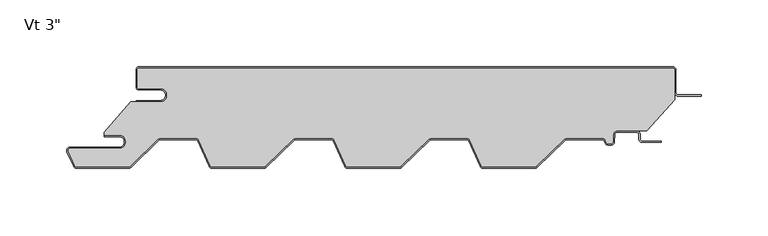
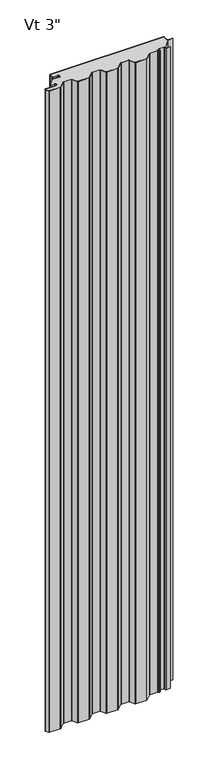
"""IFC4 building model written with IfcOpenShell, lengths in millimetres: plate geometry."""

from ifc_helpers import new_model, si_unit, point, frame_2d, origin, origin_with_axes, place, context, project, spatial, polyline, circle_curve, trimmed, segment, composite_curve, outline, extrude, source, transform, mapped, element, save


def plate_729f4142(model_context):
    return source(origin(), model_context, "Body", "SweptSolid", [
        extrude(outline(composite_curve([segment(trimmed(circle_curve(frame_2d((-184.14375, -21.4324412)), 4.96875), [point((-184.14375, -26.4011912))], [point((-184.14375, -16.4636912))], True, "CARTESIAN"), True, "CONTINUOUS"), segment(polyline([(-184.14375, -16.4636912), (-200.01875, -16.4636912)]), True, "CONTINUOUS"), segment(trimmed(circle_curve(frame_2d((-200.01875, -15.0824412)), 1.38125), [point((-200.01875, -16.4636912))], [point((-201.4, -15.0824412))], False, "CARTESIAN"), True, "CONTINUOUS"), segment(polyline([(-201.4, -15.0824412), (-201.4, -2.3824412)]), True, "CONTINUOUS"), segment(trimmed(circle_curve(frame_2d((-200.01875, -2.3824412)), 1.38125), [point((-201.4, -2.3824412))], [point((-200.01875, -1.0011912))], False, "CARTESIAN"), True, "CONTINUOUS"), segment(polyline([(-200.01875, -1.0011912), (200.03125, -1.0011912)]), True, "CONTINUOUS"), segment(trimmed(circle_curve(frame_2d((200.03125, -2.3824412)), 1.38125), [point((200.03125, -1.0011912))], [point((201.4125, -2.3824412))], False, "CARTESIAN"), True, "CONTINUOUS"), segment(polyline([(201.4125, -2.3824412), (201.4125, -24.8719682), (180.5955434, -48.2136912), (158.1683457, -48.2136912)]), True, "CONTINUOUS"), segment(trimmed(circle_curve(frame_2d((158.1683457, -50.8011912)), 2.5875), [point((158.1683457, -48.2136912))], [point((155.5843918, -50.6657719))], True, "CARTESIAN"), True, "CONTINUOUS"), segment(polyline([(155.5843918, -50.6657719), (155.2823155, -56.4297302)]), True, "CONTINUOUS"), segment(trimmed(circle_curve(frame_2d((153.9029585, -56.3574412)), 1.38125), [point((155.2823155, -56.4297302))], [point((153.9029585, -57.7386912))], False, "CARTESIAN"), True, "CONTINUOUS"), segment(polyline([(153.9029585, -57.7386912), (151.5754519, -57.7386912)]), True, "CONTINUOUS"), segment(trimmed(circle_curve(frame_2d((151.5754519, -56.3574412)), 1.38125), [point((151.5754519, -57.7386912))], [point((150.3124516, -56.9166208))], False, "CARTESIAN"), True, "CONTINUOUS"), segment(polyline([(150.3124516, -56.9166208), (149.5640306, -55.2261871)]), True, "CONTINUOUS"), segment(trimmed(circle_curve(frame_2d((147.1980481, -56.2737)), 2.5875), [point((149.5640306, -55.2261871))], [point((147.1980481, -53.6862))], True, "CARTESIAN"), True, "CONTINUOUS"), segment(polyline([(147.1980481, -53.6862), (120.6742003, -53.6862)]), True, "CONTINUOUS"), segment(trimmed(circle_curve(frame_2d((120.6742003, -56.2737)), 2.5875), [point((120.6742003, -53.6862))], [point((118.8745496, -54.4145567))], True, "CARTESIAN"), True, "CONTINUOUS"), segment(polyline([(118.8745496, -54.4145567), (97.8036462, -74.8111912)]), True, "CONTINUOUS"), segment(trimmed(circle_curve(frame_2d((96.8429631, -73.81875)), 1.38125), [point((97.8036462, -74.8111912))], [point((96.8429631, -75.2))], False, "CARTESIAN"), True, "CONTINUOUS"), segment(polyline([(96.8429631, -75.2), (57.7062557, -75.2)]), True, "CONTINUOUS"), segment(trimmed(circle_curve(frame_2d((57.7062557, -73.81875)), 1.38125), [point((57.7062557, -75.2))], [point((56.4432554, -74.3779296))], False, "CARTESIAN"), True, "CONTINUOUS"), segment(polyline([(56.4432554, -74.3779296), (47.9640306, -55.2261871)]), True, "CONTINUOUS"), segment(trimmed(circle_curve(frame_2d((45.5980481, -56.2737)), 2.5875), [point((47.9640306, -55.2261871))], [point((45.5980481, -53.6862))], True, "CARTESIAN"), True, "CONTINUOUS"), segment(polyline([(45.5980481, -53.6862), (19.0742003, -53.6862)]), True, "CONTINUOUS"), segment(trimmed(circle_curve(frame_2d((19.0742003, -56.2737)), 2.5875), [point((19.0742003, -53.6862))], [point((17.2745496, -54.4145567))], True, "CARTESIAN"), True, "CONTINUOUS"), segment(polyline([(17.2745496, -54.4145567), (-3.7963538, -74.8111912)]), True, "CONTINUOUS"), segment(trimmed(circle_curve(frame_2d((-4.7570369, -73.81875)), 1.38125), [point((-3.7963538, -74.8111912))], [point((-4.7570369, -75.2))], False, "CARTESIAN"), True, "CONTINUOUS"), segment(polyline([(-4.7570369, -75.2), (-43.8937443, -75.2)]), True, "CONTINUOUS"), segment(trimmed(circle_curve(frame_2d((-43.8937443, -73.81875)), 1.38125), [point((-43.8937443, -75.2))], [point((-45.1567446, -74.3779296))], False, "CARTESIAN"), True, "CONTINUOUS"), segment(polyline([(-45.1567446, -74.3779296), (-53.6359694, -55.2261871)]), True, "CONTINUOUS"), segment(trimmed(circle_curve(frame_2d((-56.0019519, -56.2737)), 2.5875), [point((-53.6359694, -55.2261871))], [point((-56.0019519, -53.6862))], True, "CARTESIAN"), True, "CONTINUOUS"), segment(polyline([(-56.0019519, -53.6862), (-82.5257997, -53.6862)]), True, "CONTINUOUS"), segment(trimmed(circle_curve(frame_2d((-82.5257997, -56.2737)), 2.5875), [point((-82.5257997, -53.6862))], [point((-84.3254504, -54.4145567))], True, "CARTESIAN"), True, "CONTINUOUS"), segment(polyline([(-84.3254504, -54.4145567), (-105.3963538, -74.8111912)]), True, "CONTINUOUS"), segment(trimmed(circle_curve(frame_2d((-106.3570369, -73.81875)), 1.38125), [point((-105.3963538, -74.8111912))], [point((-106.3570369, -75.2))], False, "CARTESIAN"), True, "CONTINUOUS"), segment(polyline([(-106.3570369, -75.2), (-145.4937443, -75.2)]), True, "CONTINUOUS"), segment(trimmed(circle_curve(frame_2d((-145.4937443, -73.81875)), 1.38125), [point((-145.4937443, -75.2))], [point((-146.7567446, -74.3779296))], False, "CARTESIAN"), True, "CONTINUOUS"), segment(polyline([(-146.7567446, -74.3779296), (-155.2359694, -55.2261871)]), True, "CONTINUOUS"), segment(trimmed(circle_curve(frame_2d((-157.6019519, -56.2737)), 2.5875), [point((-155.2359694, -55.2261871))], [point((-157.6019519, -53.6862))], True, "CARTESIAN"), True, "CONTINUOUS"), segment(polyline([(-157.6019519, -53.6862), (-184.1257997, -53.6862)]), True, "CONTINUOUS"), segment(trimmed(circle_curve(frame_2d((-184.1257997, -56.2737)), 2.5875), [point((-184.1257997, -53.6862))], [point((-185.9254504, -54.4145567))], True, "CARTESIAN"), True, "CONTINUOUS"), segment(polyline([(-185.9254504, -54.4145567), (-206.7876931, -74.6092077)]), True, "CONTINUOUS"), segment(trimmed(circle_curve(frame_2d((-208.2474446, -73.1012)), 2.0988), [point((-206.7876931, -74.6092077))], [point((-208.2474446, -75.2))], False, "CARTESIAN"), True, "CONTINUOUS"), segment(polyline([(-208.2474446, -75.2), (-247.0937443, -75.2)]), True, "CONTINUOUS"), segment(trimmed(circle_curve(frame_2d((-247.0937443, -73.81875)), 1.38125), [point((-247.0937443, -75.2))], [point((-248.3567446, -74.3779296))], False, "CARTESIAN"), True, "CONTINUOUS"), segment(polyline([(-248.3567446, -74.3779296), (-253.2761552, -63.2666208)]), True, "CONTINUOUS"), segment(trimmed(circle_curve(frame_2d((-252.0131549, -62.7074412)), 1.38125), [point((-253.2761552, -63.2666208))], [point((-252.0131549, -61.3261912))], False, "CARTESIAN"), True, "CONTINUOUS"), segment(polyline([(-252.0131549, -61.3261912), (-215.1, -61.3261912)]), True, "CONTINUOUS"), segment(trimmed(circle_curve(frame_2d((-215.1, -56.3574412)), 4.96875), [point((-215.1, -61.3261912))], [point((-215.1, -51.3886912))], True, "CARTESIAN"), True, "CONTINUOUS"), segment(polyline([(-215.1, -51.3886912), (-226.2125, -51.3886912), (-226.2125, -49.233822), (-206.3914112, -26.4011912), (-184.14375, -26.4011912)]), True, "CONTINUOUS")], self_intersect=False)), origin_with_axes(), (0.0, 0.0, 1.0), 2400.0),
        extrude(outline(composite_curve([segment(polyline([(-202.4, -25.4), (-184.14375, -25.4)]), True, "CONTINUOUS"), segment(trimmed(circle_curve(frame_2d((-184.14375, -21.43125)), 3.96875), [point((-184.14375, -25.4))], [point((-184.14375, -17.4625))], True, "CARTESIAN"), True, "CONTINUOUS"), segment(polyline([(-184.14375, -17.4625), (-200.01875, -17.4625)]), True, "CONTINUOUS"), segment(trimmed(circle_curve(frame_2d((-200.01875, -15.08125)), 2.38125), [point((-200.01875, -17.4625))], [point((-202.4, -15.08125))], False, "CARTESIAN"), True, "CONTINUOUS"), segment(polyline([(-202.4, -15.08125), (-202.4, -2.38125)]), True, "CONTINUOUS"), segment(trimmed(circle_curve(frame_2d((-200.01875, -2.38125)), 2.38125), [point((-202.4, -2.38125))], [point((-200.01875, 0.0))], False, "CARTESIAN"), True, "CONTINUOUS"), segment(polyline([(-200.01875, 0.0), (200.03125, 0.0)]), True, "CONTINUOUS"), segment(trimmed(circle_curve(frame_2d((200.03125, -2.38125)), 2.38125), [point((200.03125, 0.0))], [point((202.4125, -2.38125))], False, "CARTESIAN"), True, "CONTINUOUS"), segment(polyline([(202.4125, -2.38125), (202.4125, -19.446875)]), True, "CONTINUOUS"), segment(trimmed(circle_curve(frame_2d((204.0, -19.446875)), 1.5875), [point((202.4125, -19.446875))], [point((204.0, -21.034375))], True, "CARTESIAN"), True, "CONTINUOUS"), segment(polyline([(204.0, -21.034375), (221.4625, -21.034375), (221.4625, -22.034375), (204.0, -22.034375)]), True, "CONTINUOUS"), segment(trimmed(circle_curve(frame_2d((204.0, -19.446875)), 2.5875), [point((204.0, -22.034375))], [point((201.4125, -19.446875))], False, "CARTESIAN"), True, "CONTINUOUS"), segment(polyline([(201.4125, -19.446875), (201.4125, -2.38125)]), True, "CONTINUOUS"), segment(trimmed(circle_curve(frame_2d((200.03125, -2.38125)), 1.38125), [point((201.4125, -2.38125))], [point((200.03125, -1.0))], True, "CARTESIAN"), True, "CONTINUOUS"), segment(polyline([(200.03125, -1.0), (-200.01875, -1.0)]), True, "CONTINUOUS"), segment(trimmed(circle_curve(frame_2d((-200.01875, -2.38125)), 1.38125), [point((-200.01875, -1.0))], [point((-201.4, -2.38125))], True, "CARTESIAN"), True, "CONTINUOUS"), segment(polyline([(-201.4, -2.38125), (-201.4, -15.08125)]), True, "CONTINUOUS"), segment(trimmed(circle_curve(frame_2d((-200.01875, -15.08125)), 1.38125), [point((-201.4, -15.08125))], [point((-200.01875, -16.4625))], True, "CARTESIAN"), True, "CONTINUOUS"), segment(polyline([(-200.01875, -16.4625), (-184.14375, -16.4625)]), True, "CONTINUOUS"), segment(trimmed(circle_curve(frame_2d((-184.14375, -21.43125)), 4.96875), [point((-184.14375, -16.4625))], [point((-184.14375, -26.4))], False, "CARTESIAN"), True, "CONTINUOUS"), segment(polyline([(-184.14375, -26.4), (-202.4, -26.4), (-202.4, -25.4)]), True, "CONTINUOUS")], self_intersect=False)), origin_with_axes(), (0.0, 0.0, 1.0), 2400.0),
        extrude(outline(composite_curve([segment(trimmed(circle_curve(frame_2d((-215.1, -56.3574412)), 3.96875), [point((-215.1, -60.3261912))], [point((-215.1, -52.3886912))], True, "CARTESIAN"), True, "CONTINUOUS"), segment(polyline([(-215.1, -52.3886912), (-226.2125, -52.3886912), (-226.2125, -51.3886912), (-215.1, -51.3886912)]), True, "CONTINUOUS"), segment(trimmed(circle_curve(frame_2d((-215.1, -56.3574412)), 4.96875), [point((-215.1, -51.3886912))], [point((-215.1, -61.3261912))], False, "CARTESIAN"), True, "CONTINUOUS"), segment(polyline([(-215.1, -61.3261912), (-252.0131549, -61.3261912)]), True, "CONTINUOUS"), segment(trimmed(circle_curve(frame_2d((-252.0131549, -62.7074412)), 1.38125), [point((-252.0131549, -61.3261912))], [point((-253.2761552, -63.2666208))], True, "CARTESIAN"), True, "CONTINUOUS"), segment(polyline([(-253.2761552, -63.2666208), (-248.3567446, -74.3779296)]), True, "CONTINUOUS"), segment(trimmed(circle_curve(frame_2d((-247.0937443, -73.81875)), 1.38125), [point((-248.3567446, -74.3779296))], [point((-247.0937443, -75.2))], True, "CARTESIAN"), True, "CONTINUOUS"), segment(polyline([(-247.0937443, -75.2), (-208.2474446, -75.2)]), True, "CONTINUOUS"), segment(trimmed(circle_curve(frame_2d((-208.2474446, -73.1012)), 2.0988), [point((-208.2474446, -75.2))], [point((-206.7876931, -74.6092077))], True, "CARTESIAN"), True, "CONTINUOUS"), segment(polyline([(-206.7876931, -74.6092077), (-185.9254504, -54.4145567)]), True, "CONTINUOUS"), segment(trimmed(circle_curve(frame_2d((-184.1257997, -56.2737)), 2.5875), [point((-185.9254504, -54.4145567))], [point((-184.1257997, -53.6862))], False, "CARTESIAN"), True, "CONTINUOUS"), segment(polyline([(-184.1257997, -53.6862), (-157.6019519, -53.6862)]), True, "CONTINUOUS"), segment(trimmed(circle_curve(frame_2d((-157.6019519, -56.2737)), 2.5875), [point((-157.6019519, -53.6862))], [point((-155.2359694, -55.2261871))], False, "CARTESIAN"), True, "CONTINUOUS"), segment(polyline([(-155.2359694, -55.2261871), (-146.7567446, -74.3779296)]), True, "CONTINUOUS"), segment(trimmed(circle_curve(frame_2d((-145.4937443, -73.81875)), 1.38125), [point((-146.7567446, -74.3779296))], [point((-145.4937443, -75.2))], True, "CARTESIAN"), True, "CONTINUOUS"), segment(polyline([(-145.4937443, -75.2), (-106.3570369, -75.2)]), True, "CONTINUOUS"), segment(trimmed(circle_curve(frame_2d((-106.3570369, -73.81875)), 1.38125), [point((-106.3570369, -75.2))], [point((-105.3963538, -74.8111912))], True, "CARTESIAN"), True, "CONTINUOUS"), segment(polyline([(-105.3963538, -74.8111912), (-84.3254504, -54.4145567)]), True, "CONTINUOUS"), segment(trimmed(circle_curve(frame_2d((-82.5257997, -56.2737)), 2.5875), [point((-84.3254504, -54.4145567))], [point((-82.5257997, -53.6862))], False, "CARTESIAN"), True, "CONTINUOUS"), segment(polyline([(-82.5257997, -53.6862), (-56.0019519, -53.6862)]), True, "CONTINUOUS"), segment(trimmed(circle_curve(frame_2d((-56.0019519, -56.2737)), 2.5875), [point((-56.0019519, -53.6862))], [point((-53.6359694, -55.2261871))], False, "CARTESIAN"), True, "CONTINUOUS"), segment(polyline([(-53.6359694, -55.2261871), (-45.1567446, -74.3779296)]), True, "CONTINUOUS"), segment(trimmed(circle_curve(frame_2d((-43.8937443, -73.81875)), 1.38125), [point((-45.1567446, -74.3779296))], [point((-43.8937443, -75.2))], True, "CARTESIAN"), True, "CONTINUOUS"), segment(polyline([(-43.8937443, -75.2), (-4.7570369, -75.2)]), True, "CONTINUOUS"), segment(trimmed(circle_curve(frame_2d((-4.7570369, -73.81875)), 1.38125), [point((-4.7570369, -75.2))], [point((-3.7963538, -74.8111912))], True, "CARTESIAN"), True, "CONTINUOUS"), segment(polyline([(-3.7963538, -74.8111912), (17.2745496, -54.4145567)]), True, "CONTINUOUS"), segment(trimmed(circle_curve(frame_2d((19.0742003, -56.2737)), 2.5875), [point((17.2745496, -54.4145567))], [point((19.0742003, -53.6862))], False, "CARTESIAN"), True, "CONTINUOUS"), segment(polyline([(19.0742003, -53.6862), (45.5980481, -53.6862)]), True, "CONTINUOUS"), segment(trimmed(circle_curve(frame_2d((45.5980481, -56.2737)), 2.5875), [point((45.5980481, -53.6862))], [point((47.9640306, -55.2261871))], False, "CARTESIAN"), True, "CONTINUOUS"), segment(polyline([(47.9640306, -55.2261871), (56.4432554, -74.3779296)]), True, "CONTINUOUS"), segment(trimmed(circle_curve(frame_2d((57.7062557, -73.81875)), 1.38125), [point((56.4432554, -74.3779296))], [point((57.7062557, -75.2))], True, "CARTESIAN"), True, "CONTINUOUS"), segment(polyline([(57.7062557, -75.2), (96.8429631, -75.2)]), True, "CONTINUOUS"), segment(trimmed(circle_curve(frame_2d((96.8429631, -73.81875)), 1.38125), [point((96.8429631, -75.2))], [point((97.8036462, -74.8111912))], True, "CARTESIAN"), True, "CONTINUOUS"), segment(polyline([(97.8036462, -74.8111912), (118.8745496, -54.4145567)]), True, "CONTINUOUS"), segment(trimmed(circle_curve(frame_2d((120.6742003, -56.2737)), 2.5875), [point((118.8745496, -54.4145567))], [point((120.6742003, -53.6862))], False, "CARTESIAN"), True, "CONTINUOUS"), segment(polyline([(120.6742003, -53.6862), (147.1980481, -53.6862)]), True, "CONTINUOUS"), segment(trimmed(circle_curve(frame_2d((147.1980481, -56.2737)), 2.5875), [point((147.1980481, -53.6862))], [point((149.5640306, -55.2261871))], False, "CARTESIAN"), True, "CONTINUOUS"), segment(polyline([(149.5640306, -55.2261871), (150.3124516, -56.9166208)]), True, "CONTINUOUS"), segment(trimmed(circle_curve(frame_2d((151.5754519, -56.3574412)), 1.38125), [point((150.3124516, -56.9166208))], [point((151.5754519, -57.7386912))], True, "CARTESIAN"), True, "CONTINUOUS"), segment(polyline([(151.5754519, -57.7386912), (153.9029585, -57.7386912)]), True, "CONTINUOUS"), segment(trimmed(circle_curve(frame_2d((153.9029585, -56.3574412)), 1.38125), [point((153.9029585, -57.7386912))], [point((155.2823155, -56.4297302))], True, "CARTESIAN"), True, "CONTINUOUS"), segment(polyline([(155.2823155, -56.4297302), (155.5843918, -50.6657719)]), True, "CONTINUOUS"), segment(trimmed(circle_curve(frame_2d((158.1683457, -50.8011912)), 2.5875), [point((155.5843918, -50.6657719))], [point((158.1683457, -48.2136912))], False, "CARTESIAN"), True, "CONTINUOUS"), segment(polyline([(158.1683457, -48.2136912), (173.04375, -48.2136912)]), True, "CONTINUOUS"), segment(trimmed(circle_curve(frame_2d((173.04375, -50.8011912)), 2.5875), [point((173.04375, -48.2136912))], [point((175.63125, -50.8011912))], False, "CARTESIAN"), True, "CONTINUOUS"), segment(polyline([(175.63125, -50.8011912), (175.63125, -54.3730662)]), True, "CONTINUOUS"), segment(trimmed(circle_curve(frame_2d((177.0125, -54.3730662)), 1.38125), [point((175.63125, -54.3730662))], [point((177.0125, -55.7543162))], True, "CARTESIAN"), True, "CONTINUOUS"), segment(polyline([(177.0125, -55.7543162), (191.3, -55.7543162), (191.3, -56.7543162), (177.0125, -56.7543162)]), True, "CONTINUOUS"), segment(trimmed(circle_curve(frame_2d((177.0125, -54.3730662)), 2.38125), [point((177.0125, -56.7543162))], [point((174.63125, -54.3730662))], False, "CARTESIAN"), True, "CONTINUOUS"), segment(polyline([(174.63125, -54.3730662), (174.63125, -50.8011912)]), True, "CONTINUOUS"), segment(trimmed(circle_curve(frame_2d((173.04375, -50.8011912)), 1.5875), [point((174.63125, -50.8011912))], [point((173.04375, -49.2136912))], True, "CARTESIAN"), True, "CONTINUOUS"), segment(polyline([(173.04375, -49.2136912), (158.1683457, -49.2136912)]), True, "CONTINUOUS"), segment(trimmed(circle_curve(frame_2d((158.1683457, -50.8011912)), 1.5875), [point((158.1683457, -49.2136912))], [point((156.5830213, -50.7181078))], True, "CARTESIAN"), True, "CONTINUOUS"), segment(polyline([(156.5830213, -50.7181078), (156.2809451, -56.4820662)]), True, "CONTINUOUS"), segment(trimmed(circle_curve(frame_2d((153.9029585, -56.3574412)), 2.38125), [point((156.2809451, -56.4820662))], [point((153.9029585, -58.7386912))], False, "CARTESIAN"), True, "CONTINUOUS"), segment(polyline([(153.9029585, -58.7386912), (151.5754519, -58.7386912)]), True, "CONTINUOUS"), segment(trimmed(circle_curve(frame_2d((151.5754519, -56.3574412)), 2.38125), [point((151.5754519, -58.7386912))], [point((149.3980623, -57.3214567))], False, "CARTESIAN"), True, "CONTINUOUS"), segment(polyline([(149.3980623, -57.3214567), (148.6496412, -55.631023)]), True, "CONTINUOUS"), segment(trimmed(circle_curve(frame_2d((147.1980481, -56.2737)), 1.5875), [point((148.6496412, -55.631023))], [point((147.1980481, -54.6862))], True, "CARTESIAN"), True, "CONTINUOUS"), segment(polyline([(147.1980481, -54.6862), (120.6742003, -54.6862)]), True, "CONTINUOUS"), segment(trimmed(circle_curve(frame_2d((120.6742003, -56.2737)), 1.5875), [point((120.6742003, -54.6862))], [point((119.5700668, -55.1330662))], True, "CARTESIAN"), True, "CONTINUOUS"), segment(polyline([(119.5700668, -55.1330662), (98.4991634, -75.5297007)]), True, "CONTINUOUS"), segment(trimmed(circle_curve(frame_2d((96.8429631, -73.81875)), 2.38125), [point((98.4991634, -75.5297007))], [point((96.8429631, -76.2))], False, "CARTESIAN"), True, "CONTINUOUS"), segment(polyline([(96.8429631, -76.2), (57.7062557, -76.2)]), True, "CONTINUOUS"), segment(trimmed(circle_curve(frame_2d((57.7062557, -73.81875)), 2.38125), [point((57.7062557, -76.2))], [point((55.5288661, -74.7827655))], False, "CARTESIAN"), True, "CONTINUOUS"), segment(polyline([(55.5288661, -74.7827655), (47.0496412, -55.631023)]), True, "CONTINUOUS"), segment(trimmed(circle_curve(frame_2d((45.5980481, -56.2737)), 1.5875), [point((47.0496412, -55.631023))], [point((45.5980481, -54.6862))], True, "CARTESIAN"), True, "CONTINUOUS"), segment(polyline([(45.5980481, -54.6862), (19.0742003, -54.6862)]), True, "CONTINUOUS"), segment(trimmed(circle_curve(frame_2d((19.0742003, -56.2737)), 1.5875), [point((19.0742003, -54.6862))], [point((17.9700668, -55.1330662))], True, "CARTESIAN"), True, "CONTINUOUS"), segment(polyline([(17.9700668, -55.1330662), (-3.1008366, -75.5297007)]), True, "CONTINUOUS"), segment(trimmed(circle_curve(frame_2d((-4.7570369, -73.81875)), 2.38125), [point((-3.1008366, -75.5297007))], [point((-4.7570369, -76.2))], False, "CARTESIAN"), True, "CONTINUOUS"), segment(polyline([(-4.7570369, -76.2), (-43.8937443, -76.2)]), True, "CONTINUOUS"), segment(trimmed(circle_curve(frame_2d((-43.8937443, -73.81875)), 2.38125), [point((-43.8937443, -76.2))], [point((-46.0711339, -74.7827655))], False, "CARTESIAN"), True, "CONTINUOUS"), segment(polyline([(-46.0711339, -74.7827655), (-54.5503588, -55.631023)]), True, "CONTINUOUS"), segment(trimmed(circle_curve(frame_2d((-56.0019519, -56.2737)), 1.5875), [point((-54.5503588, -55.631023))], [point((-56.0019519, -54.6862))], True, "CARTESIAN"), True, "CONTINUOUS"), segment(polyline([(-56.0019519, -54.6862), (-82.5257997, -54.6862)]), True, "CONTINUOUS"), segment(trimmed(circle_curve(frame_2d((-82.5257997, -56.2737)), 1.5875), [point((-82.5257997, -54.6862))], [point((-83.6299332, -55.1330662))], True, "CARTESIAN"), True, "CONTINUOUS"), segment(polyline([(-83.6299332, -55.1330662), (-104.7008366, -75.5297007)]), True, "CONTINUOUS"), segment(trimmed(circle_curve(frame_2d((-106.3570369, -73.81875)), 2.38125), [point((-104.7008366, -75.5297007))], [point((-106.3570369, -76.2))], False, "CARTESIAN"), True, "CONTINUOUS"), segment(polyline([(-106.3570369, -76.2), (-145.4937443, -76.2)]), True, "CONTINUOUS"), segment(trimmed(circle_curve(frame_2d((-145.4937443, -73.81875)), 2.38125), [point((-145.4937443, -76.2))], [point((-147.6711339, -74.7827655))], False, "CARTESIAN"), True, "CONTINUOUS"), segment(polyline([(-147.6711339, -74.7827655), (-156.1503588, -55.631023)]), True, "CONTINUOUS"), segment(trimmed(circle_curve(frame_2d((-157.6019519, -56.2737)), 1.5875), [point((-156.1503588, -55.631023))], [point((-157.6019519, -54.6862))], True, "CARTESIAN"), True, "CONTINUOUS"), segment(polyline([(-157.6019519, -54.6862), (-184.1257997, -54.6862)]), True, "CONTINUOUS"), segment(trimmed(circle_curve(frame_2d((-184.1257997, -56.2737)), 1.5875), [point((-184.1257997, -54.6862))], [point((-185.2299332, -55.1330662))], True, "CARTESIAN"), True, "CONTINUOUS"), segment(polyline([(-185.2299332, -55.1330662), (-206.0921759, -75.3277172)]), True, "CONTINUOUS"), segment(trimmed(circle_curve(frame_2d((-208.2474446, -73.1012)), 3.0988), [point((-206.0921759, -75.3277172))], [point((-208.2474446, -76.2))], False, "CARTESIAN"), True, "CONTINUOUS"), segment(polyline([(-208.2474446, -76.2), (-247.0937443, -76.2)]), True, "CONTINUOUS"), segment(trimmed(circle_curve(frame_2d((-247.0937443, -73.81875)), 2.38125), [point((-247.0937443, -76.2))], [point((-249.2711339, -74.7827655))], False, "CARTESIAN"), True, "CONTINUOUS"), segment(polyline([(-249.2711339, -74.7827655), (-254.1905446, -63.6714567)]), True, "CONTINUOUS"), segment(trimmed(circle_curve(frame_2d((-252.0131549, -62.7074412)), 2.38125), [point((-254.1905446, -63.6714567))], [point((-252.0131549, -60.3261912))], False, "CARTESIAN"), True, "CONTINUOUS"), segment(polyline([(-252.0131549, -60.3261912), (-215.1, -60.3261912)]), True, "CONTINUOUS")], self_intersect=False)), origin_with_axes(), (0.0, 0.0, 1.0), 2400.0),
    ])


if __name__ == "__main__":
    model = new_model("IFC4")
    model_context = context("Model", 3, world=origin())
    ifc_project = project(units=[si_unit("LENGTHUNIT", "METRE", prefix="MILLI")], contexts=[model_context])
    site = spatial("IfcSite", under=ifc_project)
    building = spatial("IfcBuilding", under=site)
    placement = place(None, origin())
    plate_shape = plate_729f4142(model_context)
    element("IfcPlate", 1, ObjectType="KIP-16-DWR-R19-CP-Vt-S : Vt 3\"", at=placement, inside=building, context=model_context, shape_type="MappedRepresentation", body=[
        mapped(plate_shape, transform((0.0, 0.0, 0.0), x_axis=(1.0, 0.0, 0.0), y_axis=(0.0, 1.0, 0.0), z_axis=(0.0, 0.0, 1.0))),
    ])
    save(model, "model.ifc")
